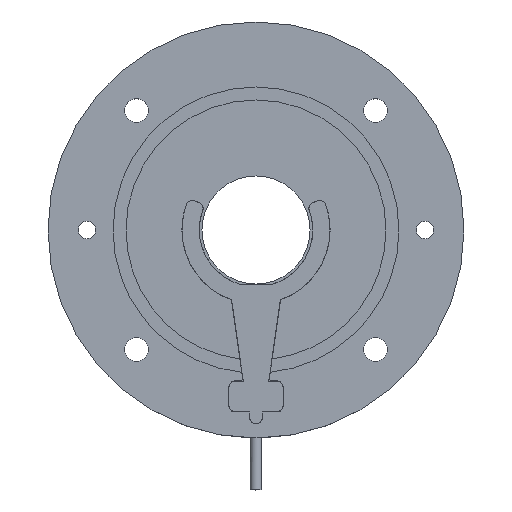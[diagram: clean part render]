
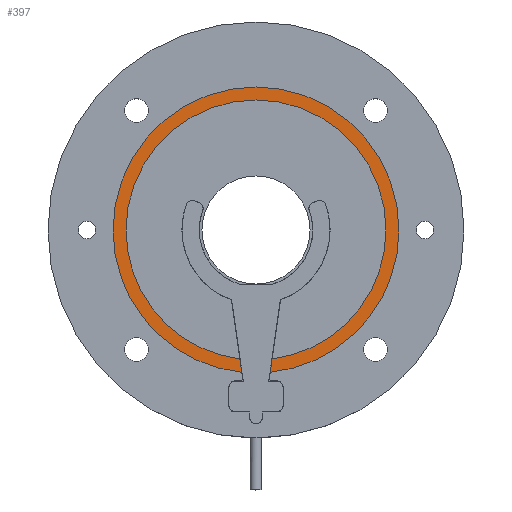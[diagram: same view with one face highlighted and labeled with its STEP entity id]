
A CAD part, top view. The second image highlights one B-rep face of the part: STEP entity #397.
In plain terms, the highlighted planar face has unit normal (0, 0, 1).
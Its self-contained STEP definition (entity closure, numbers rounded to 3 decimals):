
#31 = LINE ( 'NONE', #1942, #66 ) ;
#66 = VECTOR ( 'NONE', #1619, 1000. ) ;
#97 = EDGE_CURVE ( 'NONE', #1273, #4002, #160, .T. ) ;
#136 = VERTEX_POINT ( 'NONE', #2234 ) ;
#147 = VECTOR ( 'NONE', #189, 1000. ) ;
#149 = EDGE_CURVE ( 'NONE', #2527, #1982, #3312, .T. ) ;
#160 = CIRCLE ( 'NONE', #2516, 50. ) ;
#189 = DIRECTION ( 'NONE',  ( -0.143, -0.99, 0. ) ) ;
#290 = AXIS2_PLACEMENT_3D ( 'NONE', #1881, #1515, #1537 ) ;
#377 = DIRECTION ( 'NONE',  ( 0., 0., 1. ) ) ;
#387 = AXIS2_PLACEMENT_3D ( 'NONE', #775, #4861, #1133 ) ;
#391 = ORIENTED_EDGE ( 'NONE', *, *, #1332, .T. ) ;
#397 = ADVANCED_FACE ( 'NONE', ( #2475 ), #2179, .F. ) ;
#416 = VERTEX_POINT ( 'NONE', #1352 ) ;
#448 = AXIS2_PLACEMENT_3D ( 'NONE', #2111, #2896, #1394 ) ;
#602 = CIRCLE ( 'NONE', #607, 50. ) ;
#607 = AXIS2_PLACEMENT_3D ( 'NONE', #1030, #1054, #694 ) ;
#694 = DIRECTION ( 'NONE',  ( 1., 0., 0. ) ) ;
#733 = EDGE_CURVE ( 'NONE', #416, #1546, #1490, .T. ) ;
#775 = CARTESIAN_POINT ( 'NONE',  ( 0., 0., 0. ) ) ;
#906 = VERTEX_POINT ( 'NONE', #1915 ) ;
#1030 = CARTESIAN_POINT ( 'NONE',  ( 0., 0., 0. ) ) ;
#1054 = DIRECTION ( 'NONE',  ( 0., 0., 1. ) ) ;
#1080 = CIRCLE ( 'NONE', #3281, 55. ) ;
#1133 = DIRECTION ( 'NONE',  ( 1., 0., 0. ) ) ;
#1253 = CARTESIAN_POINT ( 'NONE',  ( 50., 0., 0. ) ) ;
#1273 = VERTEX_POINT ( 'NONE', #2790 ) ;
#1293 = CARTESIAN_POINT ( 'NONE',  ( -6.212, -49.613, 0. ) ) ;
#1332 = EDGE_CURVE ( 'NONE', #2527, #906, #1677, .T. ) ;
#1352 = CARTESIAN_POINT ( 'NONE',  ( 55., 0., 0. ) ) ;
#1394 = DIRECTION ( 'NONE',  ( -1., 0., 0. ) ) ;
#1410 = EDGE_CURVE ( 'NONE', #1982, #1273, #602, .T. ) ;
#1490 = CIRCLE ( 'NONE', #290, 55. ) ;
#1515 = DIRECTION ( 'NONE',  ( 0., 0., 1. ) ) ;
#1537 = DIRECTION ( 'NONE',  ( 1., 0., 0. ) ) ;
#1546 = VERTEX_POINT ( 'NONE', #2368 ) ;
#1591 = ORIENTED_EDGE ( 'NONE', *, *, #733, .T. ) ;
#1619 = DIRECTION ( 'NONE',  ( 0.143, -0.99, 0. ) ) ;
#1677 = LINE ( 'NONE', #4193, #147 ) ;
#1751 = CARTESIAN_POINT ( 'NONE',  ( 0., 0., 0. ) ) ;
#1881 = CARTESIAN_POINT ( 'NONE',  ( 0., 0., 0. ) ) ;
#1915 = CARTESIAN_POINT ( 'NONE',  ( 5.473, -54.727, 0. ) ) ;
#1942 = CARTESIAN_POINT ( 'NONE',  ( -20.183, 47.084, 0. ) ) ;
#1957 = EDGE_CURVE ( 'NONE', #4002, #136, #31, .T. ) ;
#1982 = VERTEX_POINT ( 'NONE', #1253 ) ;
#2111 = CARTESIAN_POINT ( 'NONE',  ( 0., 50., 0. ) ) ;
#2166 = DIRECTION ( 'NONE',  ( 1., 0., 0. ) ) ;
#2179 = PLANE ( 'NONE',  #448 ) ;
#2234 = CARTESIAN_POINT ( 'NONE',  ( -5.473, -54.727, 0. ) ) ;
#2368 = CARTESIAN_POINT ( 'NONE',  ( -55., 0., 0. ) ) ;
#2475 = FACE_OUTER_BOUND ( 'NONE', #3060, .T. ) ;
#2516 = AXIS2_PLACEMENT_3D ( 'NONE', #2977, #377, #4474 ) ;
#2527 = VERTEX_POINT ( 'NONE', #3142 ) ;
#2532 = ORIENTED_EDGE ( 'NONE', *, *, #4536, .T. ) ;
#2718 = AXIS2_PLACEMENT_3D ( 'NONE', #1751, #2879, #2166 ) ;
#2786 = DIRECTION ( 'NONE',  ( 1., 0., 0. ) ) ;
#2790 = CARTESIAN_POINT ( 'NONE',  ( -50., 0., 0. ) ) ;
#2852 = ORIENTED_EDGE ( 'NONE', *, *, #2878, .T. ) ;
#2878 = EDGE_CURVE ( 'NONE', #1546, #136, #1080, .T. ) ;
#2879 = DIRECTION ( 'NONE',  ( 0., 0., 1. ) ) ;
#2896 = DIRECTION ( 'NONE',  ( 0., 0., -1. ) ) ;
#2977 = CARTESIAN_POINT ( 'NONE',  ( 0., 0., 0. ) ) ;
#3060 = EDGE_LOOP ( 'NONE', ( #3109, #391, #2532, #1591, #2852, #4379, #3584, #4581 ) ) ;
#3109 = ORIENTED_EDGE ( 'NONE', *, *, #149, .F. ) ;
#3142 = CARTESIAN_POINT ( 'NONE',  ( 6.211, -49.613, 0. ) ) ;
#3152 = CARTESIAN_POINT ( 'NONE',  ( 0., 0., 0. ) ) ;
#3281 = AXIS2_PLACEMENT_3D ( 'NONE', #3152, #3809, #2786 ) ;
#3312 = CIRCLE ( 'NONE', #387, 50. ) ;
#3584 = ORIENTED_EDGE ( 'NONE', *, *, #97, .F. ) ;
#3809 = DIRECTION ( 'NONE',  ( 0., 0., 1. ) ) ;
#4002 = VERTEX_POINT ( 'NONE', #1293 ) ;
#4193 = CARTESIAN_POINT ( 'NONE',  ( 20.172, 47.088, 0. ) ) ;
#4379 = ORIENTED_EDGE ( 'NONE', *, *, #1957, .F. ) ;
#4474 = DIRECTION ( 'NONE',  ( 1., 0., 0. ) ) ;
#4536 = EDGE_CURVE ( 'NONE', #906, #416, #4674, .T. ) ;
#4581 = ORIENTED_EDGE ( 'NONE', *, *, #1410, .F. ) ;
#4674 = CIRCLE ( 'NONE', #2718, 55. ) ;
#4861 = DIRECTION ( 'NONE',  ( 0., 0., 1. ) ) ;
